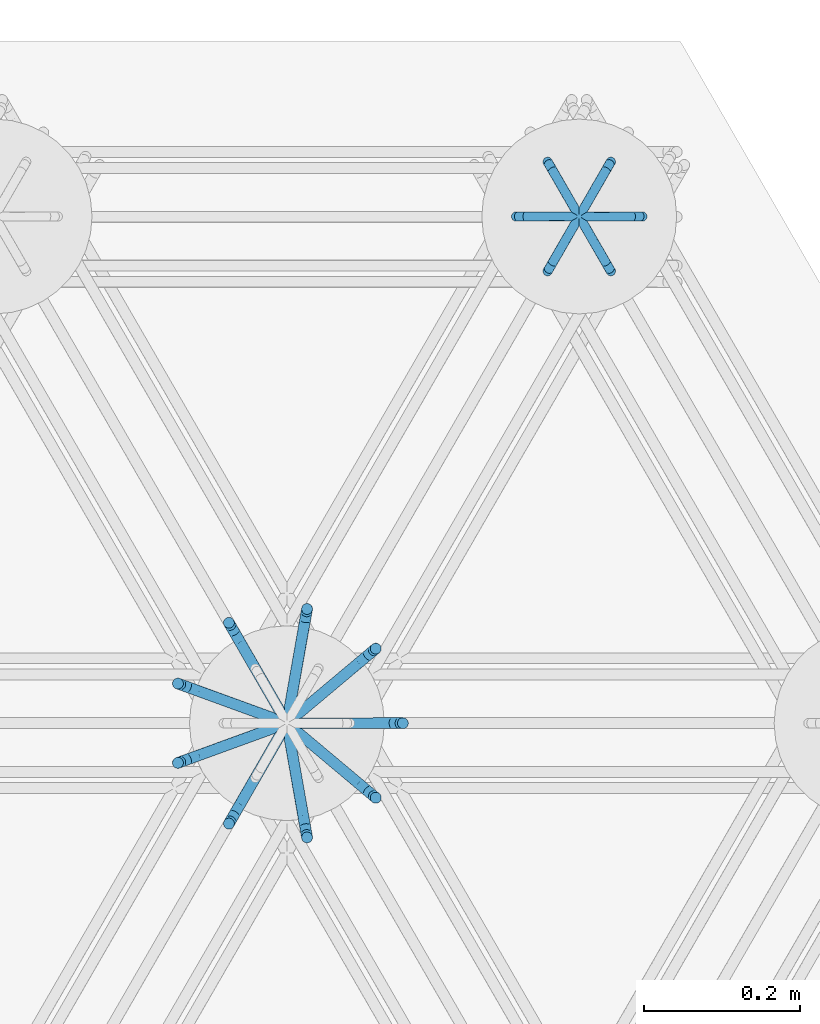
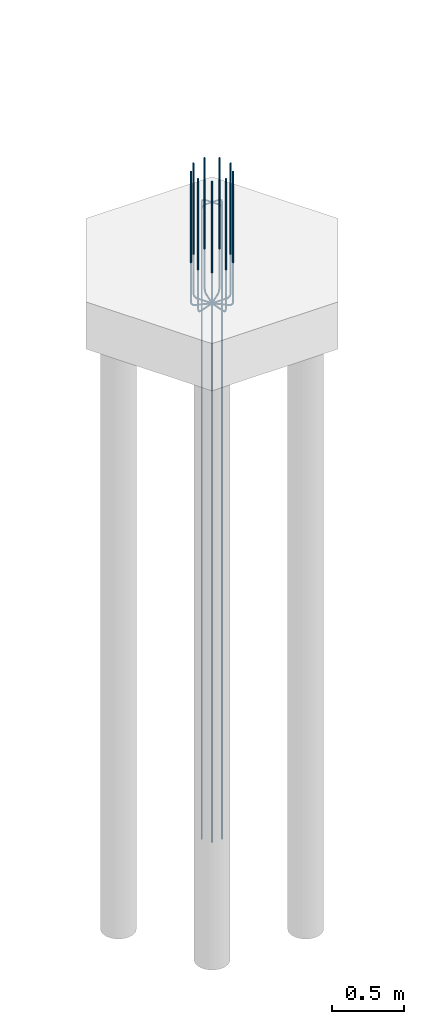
# One storey, part 17 of 23: 2 reinforcing bars.
"""IFC2X3 building model written with IfcOpenShell, lengths in metres."""

import ifcopenshell
import ifcopenshell.guid

model = None  # the IFC model being written
_history = None  # IfcOwnerHistory: only IFC2X3 demands one
_inside = {}  # id of a spatial element -> (the spatial element, [elements in it])
_under = {}  # id of a project, library or spatial element -> (it, [spatial elements below it])
_declared = {}  # id of a project -> (the project, [libraries it declares])
_typed = {}  # id of a type object -> (the type object, [elements of that type])
_made_of = {}  # id of a material, layer set ... -> (it, [elements and type objects made of it])


def new_model(schema):
    """Start an empty IFC model of exactly this schema.

    Asked for "IFC4X3", IfcOpenShell would pick the latest addendum, in which some entities
    have other attributes; the version numbers below select the first issue.
    IFC2X3 requires an IfcOwnerHistory on every rooted entity: one is made here for all.
    """
    global model, _history
    if schema == "IFC4X3":
        model = ifcopenshell.file(schema_version=(4, 3, 0, 0))
    else:
        model = ifcopenshell.file(schema=schema)
    _inside.clear()
    _under.clear()
    _declared.clear()
    _typed.clear()
    _made_of.clear()
    _history = None
    if model.schema == "IFC2X3":
        org = make("IfcOrganization", Name="unknown")
        user = make(
            "IfcPersonAndOrganization",
            ThePerson=make("IfcPerson", FamilyName="unknown"),
            TheOrganization=org,
        )
        app = make(
            "IfcApplication",
            ApplicationDeveloper=org,
            Version="unknown",
            ApplicationFullName="unknown",
            ApplicationIdentifier="unknown",
        )
        _history = make(
            "IfcOwnerHistory",
            OwningUser=user,
            OwningApplication=app,
            ChangeAction="ADDED",
            CreationDate=0,
        )
    return model


def make(cls, **values):
    """One entity of the class cls with the attributes given. An attribute that is None is left unset."""
    return model.create_entity(
        cls, **{name: value for name, value in values.items() if value is not None}
    )


def entity(cls, *values):
    """Any entity or typed value of the class cls, its attributes in the order of the schema. None: left unset."""
    e = model.create_entity(cls)
    for i, value in enumerate(values):
        if value is not None:
            e[i] = value
    return e


def rooted(cls, **values):
    """An entity with a GlobalId (a new one), such as an element, a storey or a relation."""
    return make(cls, GlobalId=ifcopenshell.guid.new(), OwnerHistory=_history, **values)


def si_unit(unit_type, name, prefix=None):
    """IfcSIUnit, for example si_unit("LENGTHUNIT", "METRE", prefix="MILLI")."""
    return make("IfcSIUnit", UnitType=unit_type, Prefix=prefix, Name=name)


def assignment(units):
    """IfcUnitAssignment: the units of a project."""
    return None if units is None else make("IfcUnitAssignment", Units=units)


def point(xyz):
    """IfcCartesianPoint."""
    return None if xyz is None else make("IfcCartesianPoint", Coordinates=xyz)


def direction(xyz):
    """IfcDirection."""
    return None if xyz is None else make("IfcDirection", DirectionRatios=xyz)


def frame(location, z_axis=None, x_axis=None):
    """IfcAxis2Placement3D, a coordinate frame: its origin and axes. An axis left out is left unset."""
    return make(
        "IfcAxis2Placement3D",
        Location=point(location),
        Axis=direction(z_axis),
        RefDirection=direction(x_axis),
    )


def origin():
    """The frame at (0, 0, 0) with its axes left unset."""
    return frame((0.0, 0.0, 0.0))


def place(relative_to, where):
    """IfcLocalPlacement: puts the frame where relative to a parent placement (None: the world)."""
    return make(
        "IfcLocalPlacement", PlacementRelTo=relative_to, RelativePlacement=where
    )


def context(
    kind, dimensions, precision=None, world=None, true_north=None, identifier=None
):
    """IfcGeometricRepresentationContext, for example the 3D "Model" context."""
    return make(
        "IfcGeometricRepresentationContext",
        ContextIdentifier=identifier,
        ContextType=kind,
        CoordinateSpaceDimension=dimensions,
        Precision=precision,
        WorldCoordinateSystem=world,
        TrueNorth=true_north,
    )


def subcontext(parent, identifier, kind, view, scale=None):
    """IfcGeometricRepresentationSubContext, for example "Body" below "Model"."""
    return make(
        "IfcGeometricRepresentationSubContext",
        ContextIdentifier=identifier,
        ContextType=kind,
        ParentContext=parent,
        TargetScale=scale,
        TargetView=view,
    )


def project(units=None, contexts=None):
    """IfcProject with its units and contexts."""
    return rooted(
        "IfcProject",
        Name="project",
        RepresentationContexts=contexts,
        UnitsInContext=assignment(units),
    )


def spatial(cls, under=None, at=None, **own):
    """A site, building, storey or space (cls), placed at a placement, below another one or the project."""
    s = rooted(cls, ObjectPlacement=at, **own)
    if under is not None:
        _under.setdefault(under.id(), (under, []))[1].append(s)
    return s


def shape(context_of_items, identifier, shape_type, items):
    """IfcShapeRepresentation: the items that make up one representation, for example the "Body"."""
    return make(
        "IfcShapeRepresentation",
        ContextOfItems=context_of_items,
        RepresentationIdentifier=identifier,
        RepresentationType=shape_type,
        Items=items,
    )


def source(mapping_origin, context_of_items, identifier, shape_type, items):
    """IfcRepresentationMap: a shape defined once, which mapped items show again and again."""
    return make(
        "IfcRepresentationMap",
        MappingOrigin=mapping_origin,
        MappedRepresentation=shape(context_of_items, identifier, shape_type, items),
    )


def transform(
    local_origin,
    x_axis=None,
    y_axis=None,
    z_axis=None,
    scale=None,
    scale2=None,
    scale3=None,
    uniform=True,
):
    """IfcCartesianTransformationOperator3D, or its non-uniform kind. x_axis, y_axis, z_axis: its Axis1, 2, 3."""
    if uniform:
        return make(
            "IfcCartesianTransformationOperator3D",
            Axis1=direction(x_axis),
            Axis2=direction(y_axis),
            LocalOrigin=point(local_origin),
            Scale=scale,
            Axis3=direction(z_axis),
        )
    return make(
        "IfcCartesianTransformationOperator3DnonUniform",
        Axis1=direction(x_axis),
        Axis2=direction(y_axis),
        LocalOrigin=point(local_origin),
        Scale=scale,
        Axis3=direction(z_axis),
        Scale2=scale2,
        Scale3=scale3,
    )


def mapped(mapping_source, mapping_target):
    """IfcMappedItem: shows the shape of a source again, moved by a transform."""
    return make(
        "IfcMappedItem", MappingSource=mapping_source, MappingTarget=mapping_target
    )


def made_of(thing, what):
    """Note that an element or type object is made of a material, layer set ...; save() writes the relation."""
    if what is not None:
        _made_of.setdefault(what.id(), (what, []))[1].append(thing)
    return thing


def element(
    cls,
    number,
    at=None,
    inside=None,
    cuts=None,
    type_object=None,
    material=None,
    context=None,
    identifier="Body",
    shape_type=None,
    held_by="IfcProductDefinitionShape",
    body=None,
    shapes=None,
    **own,
):
    """One element of the class cls, such as IfcWall. Its Tag is "e" and its number.

    at: its placement. inside: the storey or other place that contains it. cuts: it is an
    opening in that element (IfcRelVoidsElement). A single representation is given by context,
    identifier, shape_type and body (its items); several are given by shapes. held_by: the class
    of the entity that holds the representations. save() writes the other relations.
    """
    e = rooted(cls, Tag="e%d" % number, ObjectPlacement=at, **own)
    if body is not None:
        shapes = [shape(context, identifier, shape_type, body)]
    if shapes is not None:
        e.Representation = make(held_by, Representations=shapes)
    if inside is not None:
        _inside.setdefault(inside.id(), (inside, []))[1].append(e)
    if cuts is not None:
        rooted(
            "IfcRelVoidsElement", RelatingBuildingElement=cuts, RelatedOpeningElement=e
        )
    if type_object is not None:
        _typed.setdefault(type_object.id(), (type_object, []))[1].append(e)
    return made_of(e, material)


def aggregate(whole, parts):
    """IfcRelAggregates: a whole, such as a stair, and the parts it consists of."""
    return rooted("IfcRelAggregates", RelatingObject=whole, RelatedObjects=parts)


def save(model, path):
    """Write the relations noted so far, then the file.

    IfcRelAggregates (storeys below a building ...), IfcRelContainedInSpatialStructure (elements
    in a storey), IfcRelDefinesByType, IfcRelAssociatesMaterial and IfcRelDeclares: one each for
    every whole, place, type object, material and project.
    """
    for whole, parts in _under.values():
        aggregate(whole, parts)
    for where, things in _inside.values():
        rooted(
            "IfcRelContainedInSpatialStructure",
            RelatedElements=things,
            RelatingStructure=where,
        )
    for kind, things in _typed.values():
        rooted("IfcRelDefinesByType", RelatedObjects=things, RelatingType=kind)
    for what, things in _made_of.values():
        rooted("IfcRelAssociatesMaterial", RelatedObjects=things, RelatingMaterial=what)
    for by, libraries in _declared.values():
        rooted("IfcRelDeclares", RelatingContext=by, RelatedDefinitions=libraries)
    model.write(path)


model = new_model("IFC2X3")

# Units and contexts
model_context = context("Model", 3, precision=0.0, world=origin(), true_north=direction((0.0, 1.0)))
plan_context = context("Plan", 3, precision=0.0, world=origin(), true_north=direction((0.0, 1.0)))
body_context = subcontext(model_context, "Body", "Model", "MODEL_VIEW", scale=1.0)
ifc_project = project(units=[si_unit("LENGTHUNIT", "METRE"), si_unit("AREAUNIT", "SQUARE_METRE"), si_unit("VOLUMEUNIT", "CUBIC_METRE"), si_unit("PLANEANGLEUNIT", "RADIAN"), si_unit("THERMODYNAMICTEMPERATUREUNIT", "DEGREE_CELSIUS"), si_unit("FORCEUNIT", "NEWTON"), si_unit("MASSUNIT", "GRAM", prefix="KILO")], contexts=[model_context, plan_context])

# Site, building, storey
placement = place(None, origin())
site = spatial("IfcSite", under=ifc_project, at=placement, Name="Default Site", CompositionType="ELEMENT")
building = spatial("IfcBuilding", under=site, at=placement, Name="Default Building", CompositionType="ELEMENT")
storey_placement = place(placement, frame((0.0, 0.0, 0.0), z_axis=(1.0, 0.0, 0.0), x_axis=(0.0, 0.0, 1.0)))
storey = spatial("IfcBuildingStorey", under=building, at=storey_placement, Name="Piano 0", CompositionType="ELEMENT", Elevation=0.0)

# Reinforcing bars
shared_shape_1 = source(origin(), body_context, None, "AdvancedSweptSolid", [
    entity("IfcSweptDiskSolid", entity("IfcCompositeCurve", [entity("IfcCompositeCurveSegment", "CONTINUOUS", True, entity("IfcPolyline", [entity("IfcCartesianPoint", [0.0, 0.0, 0.0]), entity("IfcCartesianPoint", [-0.096, 0.0, 0.0]), entity("IfcCartesianPoint", [-0.108, 0.0, -0.003215]), entity("IfcCartesianPoint", [-0.116785, 0.0, -0.012]), entity("IfcCartesianPoint", [-0.12, 0.0, -0.024]), entity("IfcCartesianPoint", [-0.12, 0.0, -5.366])]))], False), 0.006, 0.0, 0.0),
])
shared_shape_2 = source(origin(), body_context, None, "AdvancedSweptSolid", [
    entity("IfcSweptDiskSolid", entity("IfcCompositeCurve", [entity("IfcCompositeCurveSegment", "CONTINUOUS", True, entity("IfcPolyline", [entity("IfcCartesianPoint", [0.0, 0.0, 0.0]), entity("IfcCartesianPoint", [-0.096, 0.0, 0.0]), entity("IfcCartesianPoint", [-0.108, 0.0, -0.003215]), entity("IfcCartesianPoint", [-0.116785, 0.0, -0.012]), entity("IfcCartesianPoint", [-0.12, 0.0, -0.024]), entity("IfcCartesianPoint", [-0.12, 0.0, -5.366])]))], False), 0.006, 0.0, 0.0),
])
shared_shape_3 = source(origin(), body_context, None, "AdvancedSweptSolid", [
    entity("IfcSweptDiskSolid", entity("IfcCompositeCurve", [entity("IfcCompositeCurveSegment", "CONTINUOUS", True, entity("IfcPolyline", [entity("IfcCartesianPoint", [0.0, 0.0, 0.0]), entity("IfcCartesianPoint", [-0.096, 0.0, 0.0]), entity("IfcCartesianPoint", [-0.108, 0.0, -0.003215]), entity("IfcCartesianPoint", [-0.116785, 0.0, -0.012]), entity("IfcCartesianPoint", [-0.12, 0.0, -0.024]), entity("IfcCartesianPoint", [-0.12, 0.0, -5.366])]))], False), 0.006, 0.0, 0.0),
])
shared_shape_4 = source(origin(), body_context, None, "AdvancedSweptSolid", [
    entity("IfcSweptDiskSolid", entity("IfcCompositeCurve", [entity("IfcCompositeCurveSegment", "CONTINUOUS", True, entity("IfcPolyline", [entity("IfcCartesianPoint", [0.0, 0.0, 0.0]), entity("IfcCartesianPoint", [-0.096, 0.0, 0.0]), entity("IfcCartesianPoint", [-0.108, 0.0, -0.003215]), entity("IfcCartesianPoint", [-0.116785, 0.0, -0.012]), entity("IfcCartesianPoint", [-0.12, 0.0, -0.024]), entity("IfcCartesianPoint", [-0.12, 0.0, -5.366])]))], False), 0.006, 0.0, 0.0),
])
shared_shape_5 = source(origin(), body_context, None, "AdvancedSweptSolid", [
    entity("IfcSweptDiskSolid", entity("IfcCompositeCurve", [entity("IfcCompositeCurveSegment", "CONTINUOUS", True, entity("IfcPolyline", [entity("IfcCartesianPoint", [0.0, 0.0, 0.0]), entity("IfcCartesianPoint", [-0.096, 0.0, 0.0]), entity("IfcCartesianPoint", [-0.108, 0.0, -0.003215]), entity("IfcCartesianPoint", [-0.116785, 0.0, -0.012]), entity("IfcCartesianPoint", [-0.12, 0.0, -0.024]), entity("IfcCartesianPoint", [-0.12, 0.0, -5.366])]))], False), 0.006, 0.0, 0.0),
])
shared_shape_6 = source(origin(), body_context, None, "AdvancedSweptSolid", [
    entity("IfcSweptDiskSolid", entity("IfcCompositeCurve", [entity("IfcCompositeCurveSegment", "CONTINUOUS", True, entity("IfcPolyline", [entity("IfcCartesianPoint", [0.0, 0.0, 0.0]), entity("IfcCartesianPoint", [-0.096, 0.0, 0.0]), entity("IfcCartesianPoint", [-0.108, 0.0, -0.003215]), entity("IfcCartesianPoint", [-0.116785, 0.0, -0.012]), entity("IfcCartesianPoint", [-0.12, 0.0, -0.024]), entity("IfcCartesianPoint", [-0.12, 0.0, -5.366])]))], False), 0.006, 0.0, 0.0),
])
element("IfcReinforcingBar", 1, at=placement, inside=storey, Name="Arm Principale; Palo:4 Filo:3 [Piano:0]", BarLength=32.916, BarRole="MAIN", BarSurface="TEXTURED", NominalDiameter=0.012, shapes=[
    shape(body_context, None, "MappedRepresentation", [mapped(shared_shape_1, transform((8.414, 0.65, -0.034))), mapped(shared_shape_2, transform((8.3945, 0.683775, -0.034), x_axis=(0.5, 0.866025, 0.0), y_axis=(-0.866025, 0.5, 0.0))), mapped(shared_shape_3, transform((8.3555, 0.683775, -0.034), x_axis=(-0.5, 0.866025, 0.0), y_axis=(-0.866025, -0.5, 0.0))), mapped(shared_shape_4, transform((8.336, 0.65, -0.034), x_axis=(-1.0, 0.0, 0.0), y_axis=(0.0, -1.0, 0.0))), mapped(shared_shape_5, transform((8.3555, 0.616225, -0.034), x_axis=(-0.5, -0.866025, 0.0), y_axis=(0.866025, -0.5, 0.0))), mapped(shared_shape_6, transform((8.3945, 0.616225, -0.034), x_axis=(0.5, -0.866025, 0.0), y_axis=(0.866025, 0.5, 0.0)))]),
])
shared_shape_7 = source(origin(), body_context, None, "AdvancedSweptSolid", [
    entity("IfcSweptDiskSolid", entity("IfcCompositeCurve", [entity("IfcCompositeCurveSegment", "CONTINUOUS", True, entity("IfcPolyline", [entity("IfcCartesianPoint", [0.0, 0.0, 0.0]), entity("IfcCartesianPoint", [0.112, 0.0, 0.0]), entity("IfcCartesianPoint", [0.126, 0.0, 0.003751]), entity("IfcCartesianPoint", [0.136249, 0.0, 0.014]), entity("IfcCartesianPoint", [0.14, 0.0, 0.028]), entity("IfcCartesianPoint", [0.14, 0.0, 1.135])]))], False), 0.007, 0.0, 0.0),
])
shared_shape_8 = source(origin(), body_context, None, "MappedRepresentation", [mapped(shared_shape_7, transform((8.008754, 0.0, -0.365)))])
shared_shape_9 = source(origin(), body_context, None, "AdvancedSweptSolid", [
    entity("IfcSweptDiskSolid", entity("IfcCompositeCurve", [entity("IfcCompositeCurveSegment", "CONTINUOUS", True, entity("IfcPolyline", [entity("IfcCartesianPoint", [0.0, 0.0, 0.0]), entity("IfcCartesianPoint", [0.085797, 0.071992, 0.0]), entity("IfcCartesianPoint", [0.096522, 0.080991, 0.003751]), entity("IfcCartesianPoint", [0.104373, 0.087579, 0.014]), entity("IfcCartesianPoint", [0.107246, 0.08999, 0.028]), entity("IfcCartesianPoint", [0.107246, 0.08999, 1.135])]))], False), 0.007, 0.0, 0.0),
])
shared_shape_10 = source(origin(), body_context, None, "MappedRepresentation", [mapped(shared_shape_9, transform((8.006706, 0.005627, -0.365)))])
shared_shape_11 = source(origin(), body_context, None, "AdvancedSweptSolid", [
    entity("IfcSweptDiskSolid", entity("IfcCompositeCurve", [entity("IfcCompositeCurveSegment", "CONTINUOUS", True, entity("IfcPolyline", [entity("IfcCartesianPoint", [0.0, 0.0, 0.0]), entity("IfcCartesianPoint", [0.019449, 0.110298, 0.0]), entity("IfcCartesianPoint", [0.02188, 0.124086, 0.003751]), entity("IfcCartesianPoint", [0.023659, 0.134179, 0.014]), entity("IfcCartesianPoint", [0.024311, 0.137873, 0.028]), entity("IfcCartesianPoint", [0.024311, 0.137873, 1.135])]))], False), 0.007, 0.0, 0.0),
])
shared_shape_12 = source(origin(), body_context, None, "MappedRepresentation", [mapped(shared_shape_11, transform((8.00152, 0.008621, -0.365)))])
shared_shape_13 = source(origin(), body_context, None, "AdvancedSweptSolid", [
    entity("IfcSweptDiskSolid", entity("IfcCompositeCurve", [entity("IfcCompositeCurveSegment", "CONTINUOUS", True, entity("IfcPolyline", [entity("IfcCartesianPoint", [0.0, 0.0, 0.0]), entity("IfcCartesianPoint", [-0.056, 0.096995, 0.0]), entity("IfcCartesianPoint", [-0.063, 0.109119, 0.003751]), entity("IfcCartesianPoint", [-0.068124, 0.117995, 0.014]), entity("IfcCartesianPoint", [-0.07, 0.121244, 0.028]), entity("IfcCartesianPoint", [-0.07, 0.121244, 1.135])]))], False), 0.007, 0.0, 0.0),
])
shared_shape_14 = source(origin(), body_context, None, "MappedRepresentation", [mapped(shared_shape_13, transform((7.995623, 0.007581, -0.365)))])
shared_shape_15 = source(origin(), body_context, None, "AdvancedSweptSolid", [
    entity("IfcSweptDiskSolid", entity("IfcCompositeCurve", [entity("IfcCompositeCurveSegment", "CONTINUOUS", True, entity("IfcPolyline", [entity("IfcCartesianPoint", [0.0, 0.0, 0.0]), entity("IfcCartesianPoint", [-0.105246, 0.038306, 0.0]), entity("IfcCartesianPoint", [-0.118401, 0.043095, 0.003751]), entity("IfcCartesianPoint", [-0.128032, 0.0466, 0.014]), entity("IfcCartesianPoint", [-0.131557, 0.047883, 0.028]), entity("IfcCartesianPoint", [-0.131557, 0.047883, 1.135])]))], False), 0.007, 0.0, 0.0),
])
shared_shape_16 = source(origin(), body_context, None, "MappedRepresentation", [mapped(shared_shape_15, transform((7.991774, 0.002994, -0.365)))])
shared_shape_17 = source(origin(), body_context, None, "AdvancedSweptSolid", [
    entity("IfcSweptDiskSolid", entity("IfcCompositeCurve", [entity("IfcCompositeCurveSegment", "CONTINUOUS", True, entity("IfcPolyline", [entity("IfcCartesianPoint", [0.0, 0.0, 0.0]), entity("IfcCartesianPoint", [-0.105246, -0.038306, 0.0]), entity("IfcCartesianPoint", [-0.118401, -0.043095, 0.003751]), entity("IfcCartesianPoint", [-0.128032, -0.0466, 0.014]), entity("IfcCartesianPoint", [-0.131557, -0.047883, 0.028]), entity("IfcCartesianPoint", [-0.131557, -0.047883, 1.135])]))], False), 0.007, 0.0, 0.0),
])
shared_shape_18 = source(origin(), body_context, None, "MappedRepresentation", [mapped(shared_shape_17, transform((7.991774, -0.002994, -0.365)))])
shared_shape_19 = source(origin(), body_context, None, "AdvancedSweptSolid", [
    entity("IfcSweptDiskSolid", entity("IfcCompositeCurve", [entity("IfcCompositeCurveSegment", "CONTINUOUS", True, entity("IfcPolyline", [entity("IfcCartesianPoint", [0.0, 0.0, 0.0]), entity("IfcCartesianPoint", [-0.056, -0.096995, 0.0]), entity("IfcCartesianPoint", [-0.063, -0.109119, 0.003751]), entity("IfcCartesianPoint", [-0.068124, -0.117995, 0.014]), entity("IfcCartesianPoint", [-0.07, -0.121244, 0.028]), entity("IfcCartesianPoint", [-0.07, -0.121244, 1.135])]))], False), 0.007, 0.0, 0.0),
])
shared_shape_20 = source(origin(), body_context, None, "MappedRepresentation", [mapped(shared_shape_19, transform((7.995623, -0.007581, -0.365)))])
shared_shape_21 = source(origin(), body_context, None, "AdvancedSweptSolid", [
    entity("IfcSweptDiskSolid", entity("IfcCompositeCurve", [entity("IfcCompositeCurveSegment", "CONTINUOUS", True, entity("IfcPolyline", [entity("IfcCartesianPoint", [0.0, 0.0, 0.0]), entity("IfcCartesianPoint", [0.019449, -0.110298, 0.0]), entity("IfcCartesianPoint", [0.02188, -0.124086, 0.003751]), entity("IfcCartesianPoint", [0.023659, -0.134179, 0.014]), entity("IfcCartesianPoint", [0.024311, -0.137873, 0.028]), entity("IfcCartesianPoint", [0.024311, -0.137873, 1.135])]))], False), 0.007, 0.0, 0.0),
])
shared_shape_22 = source(origin(), body_context, None, "MappedRepresentation", [mapped(shared_shape_21, transform((8.00152, -0.008621, -0.365)))])
shared_shape_23 = source(origin(), body_context, None, "AdvancedSweptSolid", [
    entity("IfcSweptDiskSolid", entity("IfcCompositeCurve", [entity("IfcCompositeCurveSegment", "CONTINUOUS", True, entity("IfcPolyline", [entity("IfcCartesianPoint", [0.0, 0.0, 0.0]), entity("IfcCartesianPoint", [0.085797, -0.071992, 0.0]), entity("IfcCartesianPoint", [0.096522, -0.080991, 0.003751]), entity("IfcCartesianPoint", [0.104373, -0.087579, 0.014]), entity("IfcCartesianPoint", [0.107246, -0.08999, 0.028]), entity("IfcCartesianPoint", [0.107246, -0.08999, 1.135])]))], False), 0.007, 0.0, 0.0),
])
shared_shape_24 = source(origin(), body_context, None, "MappedRepresentation", [mapped(shared_shape_23, transform((8.006706, -0.005627, -0.365)))])
element("IfcReinforcingBar", 2, at=placement, inside=storey, Name="Arm Ancoraggio; Nodo:3 [Piano:0]", BarLength=11.387371, BarSurface="TEXTURED", NominalDiameter=0.014, shapes=[
    shape(body_context, None, "MappedRepresentation", [mapped(shared_shape_8, transform((0.0, 0.0, 0.0))), mapped(shared_shape_10, transform((0.0, 0.0, 0.0))), mapped(shared_shape_12, transform((0.0, 0.0, 0.0))), mapped(shared_shape_14, transform((0.0, 0.0, 0.0))), mapped(shared_shape_16, transform((0.0, 0.0, 0.0))), mapped(shared_shape_18, transform((0.0, 0.0, 0.0))), mapped(shared_shape_20, transform((0.0, 0.0, 0.0))), mapped(shared_shape_22, transform((0.0, 0.0, 0.0))), mapped(shared_shape_24, transform((0.0, 0.0, 0.0)))]),
])

save(model, "model.ifc")
